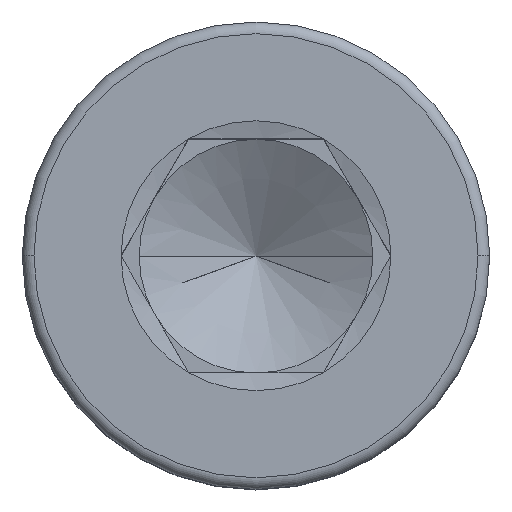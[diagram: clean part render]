
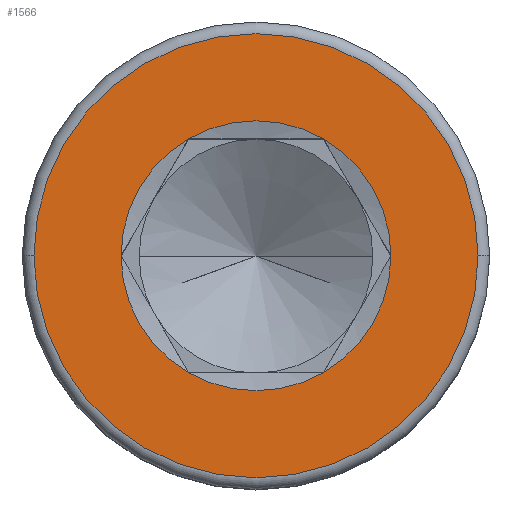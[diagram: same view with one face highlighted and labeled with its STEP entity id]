
A CAD part, top view. The second image highlights one B-rep face of the part: STEP entity #1566.
In plain terms, the highlighted planar face has unit normal (0, 0, 1).
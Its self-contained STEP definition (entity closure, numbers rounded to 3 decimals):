
#16 = CARTESIAN_POINT ( 'NONE',  ( -3.8, 0., 5. ) ) ;
#26 = CARTESIAN_POINT ( 'NONE',  ( 0., 0., 5. ) ) ;
#71 = ORIENTED_EDGE ( 'NONE', *, *, #470, .T. ) ;
#73 = DIRECTION ( 'NONE',  ( 1., 0., 0. ) ) ;
#81 = DIRECTION ( 'NONE',  ( 0., 0., 1. ) ) ;
#87 = ORIENTED_EDGE ( 'NONE', *, *, #1314, .F. ) ;
#162 = DIRECTION ( 'NONE',  ( 0., 0., 1. ) ) ;
#164 = EDGE_LOOP ( 'NONE', ( #1196, #87, #458, #1784, #317, #1605 ) ) ;
#170 = DIRECTION ( 'NONE',  ( 1., 0., 0. ) ) ;
#182 = AXIS2_PLACEMENT_3D ( 'NONE', #1687, #410, #1441 ) ;
#230 = VERTEX_POINT ( 'NONE', #1232 ) ;
#244 = DIRECTION ( 'NONE',  ( 1., 0., 0. ) ) ;
#278 = AXIS2_PLACEMENT_3D ( 'NONE', #1371, #1117, #1675 ) ;
#287 = ORIENTED_EDGE ( 'NONE', *, *, #910, .T. ) ;
#291 = VERTEX_POINT ( 'NONE', #1517 ) ;
#295 = EDGE_LOOP ( 'NONE', ( #71, #287 ) ) ;
#299 = CIRCLE ( 'NONE', #745, 3.8 ) ;
#300 = DIRECTION ( 'NONE',  ( 1., 0., 0. ) ) ;
#317 = ORIENTED_EDGE ( 'NONE', *, *, #1858, .F. ) ;
#324 = CARTESIAN_POINT ( 'NONE',  ( 0., 0., 5. ) ) ;
#345 = EDGE_CURVE ( 'NONE', #813, #1393, #1121, .T. ) ;
#410 = DIRECTION ( 'NONE',  ( 0., 0., 1. ) ) ;
#435 = CARTESIAN_POINT ( 'NONE',  ( 0., 0., 5. ) ) ;
#458 = ORIENTED_EDGE ( 'NONE', *, *, #1191, .F. ) ;
#470 = EDGE_CURVE ( 'NONE', #291, #1547, #815, .T. ) ;
#535 = AXIS2_PLACEMENT_3D ( 'NONE', #435, #162, #300 ) ;
#548 = FACE_OUTER_BOUND ( 'NONE', #295, .T. ) ;
#557 = AXIS2_PLACEMENT_3D ( 'NONE', #1516, #809, #664 ) ;
#595 = AXIS2_PLACEMENT_3D ( 'NONE', #324, #607, #170 ) ;
#607 = DIRECTION ( 'NONE',  ( 0., 0., 1. ) ) ;
#664 = DIRECTION ( 'NONE',  ( 1., 0., 0. ) ) ;
#745 = AXIS2_PLACEMENT_3D ( 'NONE', #1312, #846, #244 ) ;
#783 = DIRECTION ( 'NONE',  ( 1., 0., 0. ) ) ;
#808 = AXIS2_PLACEMENT_3D ( 'NONE', #962, #81, #73 ) ;
#809 = DIRECTION ( 'NONE',  ( 0., 0., 1. ) ) ;
#811 = CIRCLE ( 'NONE', #1298, 2.309 ) ;
#813 = VERTEX_POINT ( 'NONE', #900 ) ;
#815 = CIRCLE ( 'NONE', #535, 3.8 ) ;
#836 = VERTEX_POINT ( 'NONE', #1342 ) ;
#846 = DIRECTION ( 'NONE',  ( 0., 0., 1. ) ) ;
#900 = CARTESIAN_POINT ( 'NONE',  ( 2.309, 0., 5. ) ) ;
#902 = AXIS2_PLACEMENT_3D ( 'NONE', #26, #1626, #783 ) ;
#908 = VERTEX_POINT ( 'NONE', #1561 ) ;
#910 = EDGE_CURVE ( 'NONE', #1547, #291, #299, .T. ) ;
#935 = DIRECTION ( 'NONE',  ( 1., 0., 0. ) ) ;
#962 = CARTESIAN_POINT ( 'NONE',  ( 0., 0., 5. ) ) ;
#1055 = CIRCLE ( 'NONE', #182, 2.309 ) ;
#1084 = DIRECTION ( 'NONE',  ( 0., 0., 1. ) ) ;
#1117 = DIRECTION ( 'NONE',  ( 0., 0., 1. ) ) ;
#1121 = CIRCLE ( 'NONE', #278, 2.309 ) ;
#1159 = PLANE ( 'NONE',  #808 ) ;
#1168 = FACE_BOUND ( 'NONE', #164, .T. ) ;
#1191 = EDGE_CURVE ( 'NONE', #908, #836, #1584, .T. ) ;
#1196 = ORIENTED_EDGE ( 'NONE', *, *, #345, .F. ) ;
#1211 = CARTESIAN_POINT ( 'NONE',  ( 1.155, 2., 5. ) ) ;
#1232 = CARTESIAN_POINT ( 'NONE',  ( -1.155, 2., 5. ) ) ;
#1298 = AXIS2_PLACEMENT_3D ( 'NONE', #1368, #1084, #935 ) ;
#1312 = CARTESIAN_POINT ( 'NONE',  ( 0., 0., 5. ) ) ;
#1314 = EDGE_CURVE ( 'NONE', #836, #813, #1055, .T. ) ;
#1329 = CIRCLE ( 'NONE', #595, 2.309 ) ;
#1342 = CARTESIAN_POINT ( 'NONE',  ( 1.155, -2., 5. ) ) ;
#1368 = CARTESIAN_POINT ( 'NONE',  ( 0., 0., 5. ) ) ;
#1371 = CARTESIAN_POINT ( 'NONE',  ( 0., 0., 5. ) ) ;
#1393 = VERTEX_POINT ( 'NONE', #1211 ) ;
#1441 = DIRECTION ( 'NONE',  ( 1., 0., 0. ) ) ;
#1516 = CARTESIAN_POINT ( 'NONE',  ( 0., 0., 5. ) ) ;
#1517 = CARTESIAN_POINT ( 'NONE',  ( 3.8, 0., 5. ) ) ;
#1547 = VERTEX_POINT ( 'NONE', #16 ) ;
#1561 = CARTESIAN_POINT ( 'NONE',  ( -1.155, -2., 5. ) ) ;
#1566 = ADVANCED_FACE ( 'NONE', ( #548, #1168 ), #1159, .T. ) ;
#1584 = CIRCLE ( 'NONE', #557, 2.309 ) ;
#1605 = ORIENTED_EDGE ( 'NONE', *, *, #1879, .F. ) ;
#1626 = DIRECTION ( 'NONE',  ( 0., 0., 1. ) ) ;
#1663 = VERTEX_POINT ( 'NONE', #1703 ) ;
#1675 = DIRECTION ( 'NONE',  ( 1., 0., 0. ) ) ;
#1687 = CARTESIAN_POINT ( 'NONE',  ( 0., 0., 5. ) ) ;
#1703 = CARTESIAN_POINT ( 'NONE',  ( -2.309, 0., 5. ) ) ;
#1764 = CIRCLE ( 'NONE', #902, 2.309 ) ;
#1784 = ORIENTED_EDGE ( 'NONE', *, *, #1812, .F. ) ;
#1812 = EDGE_CURVE ( 'NONE', #1663, #908, #811, .T. ) ;
#1858 = EDGE_CURVE ( 'NONE', #230, #1663, #1764, .T. ) ;
#1879 = EDGE_CURVE ( 'NONE', #1393, #230, #1329, .T. ) ;
